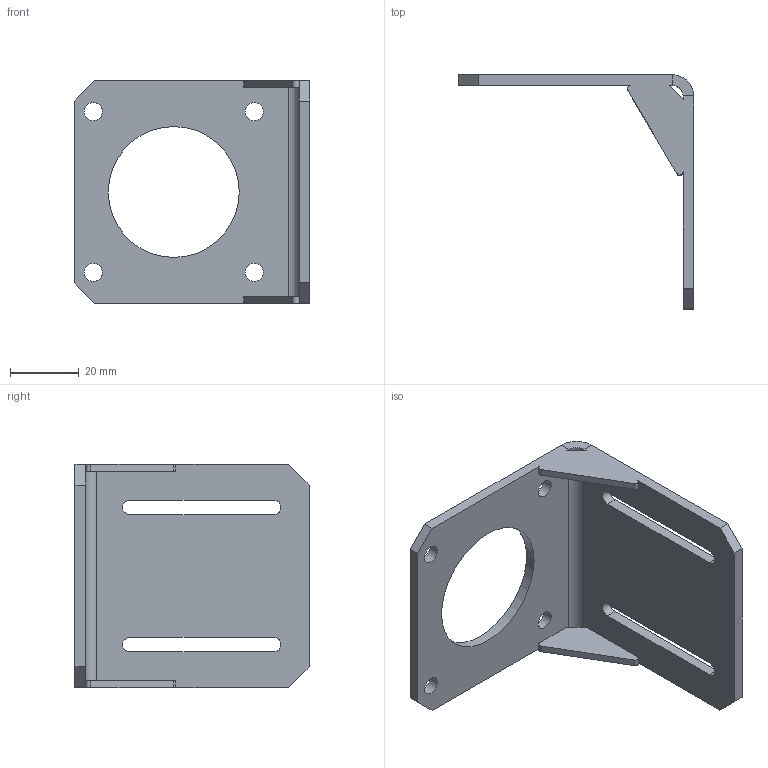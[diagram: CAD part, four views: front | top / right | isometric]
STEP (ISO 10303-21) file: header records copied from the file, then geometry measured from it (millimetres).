
FILE_DESCRIPTION(/* description */ (''),/* implementation_level */ '2;1');
FILE_NAME(/* name */ 'C:\Users\Lukas\Documents\Inventor\Rocketronics Teile\NEMA 23 Winkel.stp',/* time_stamp */ '2026-03-17T17:07:57+01:00',/* author */ ('Lukas'),/* organization */ (''),/* preprocessor_version */ 'ST-DEVELOPER v19',/* originating_system */ 'Autodesk Inventor 2023',/* authorisation */ '');
FILE_SCHEMA (('AUTOMOTIVE_DESIGN { 1 0 10303 214 3 1 1 }'));
Length unit declared in the file: millimetre
Products named in the file (1): NEMA 23 Winkel
Bounding box: 68.7 x 68.35 x 65.1 mm (x, y, z)
Volume: 22333.6 mm3; surface area: 17124.5 mm2
Topology: 1 solids, 1 shells, 39 faces, 115 edges, 74 vertices
Faces by surface type: plane 24, cylinder 15
Full cylindrical faces by diameter (mm): 5.3 x4, 38.2 x1
Entity records: 1374 total; most frequent: ORIENTED_EDGE 230, CARTESIAN_POINT 229, DIRECTION 225, EDGE_CURVE 115, LINE 85, VECTOR 85, VERTEX_POINT 74, AXIS2_PLACEMENT_3D 70
